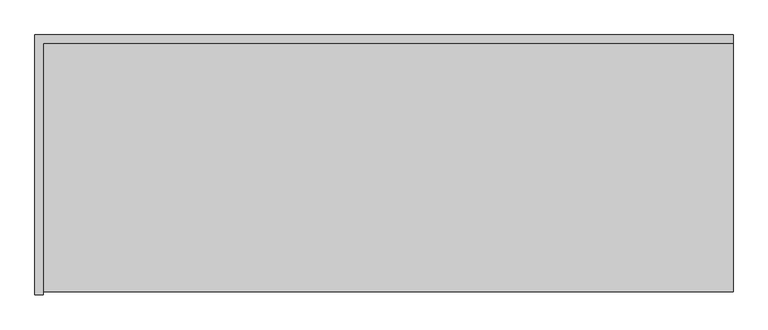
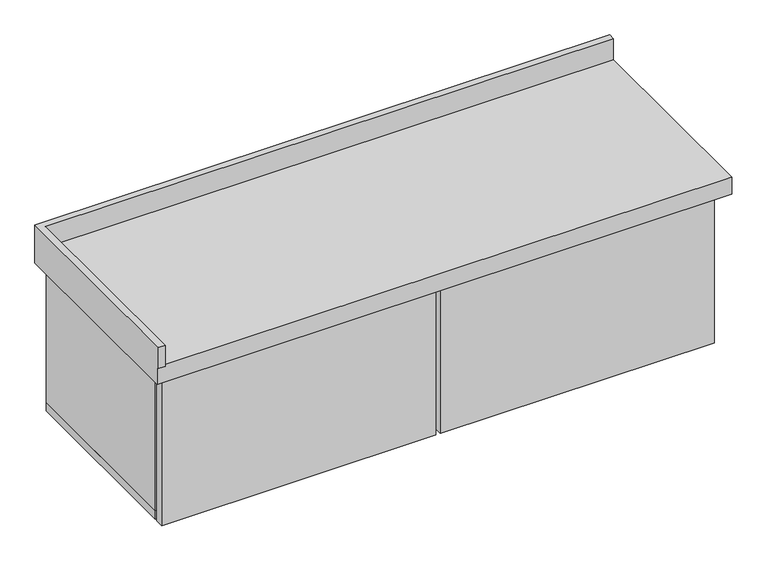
"""IFC4 building model written with IfcOpenShell, lengths in millimetres: furniture geometry, Mueble colgado 2 cajones al lado - lavabo sobreponer : MB10  mueble baño colgado-2 cajones al lado 151."""

from ifc_helpers import new_model, si_unit, frame, origin, place, context, project, spatial, polyline, outline, extrude, faceted_brep, source, transform, mapped, element, save


def furniture_72b59f7f(model_context):
    return source(origin(), model_context, "Body", "SolidModel", [
        extrude(outline(polyline([(-495.0, -520.0), (120.0, -520.0), (120.0, -540.0), (-495.0, -540.0), (-495.0, -520.0)])), frame((0.0, 0.0, 350.0), z_axis=(0.0, 0.0, 1.0), x_axis=(1.0, 0.0, 0.0)), (0.0, 0.0, 1.0), 350.0),
        faceted_brep([(-520.0, -570.0, 800.0), (-520.0, -570.0, 750.0), (-505.0, -570.0, 750.0), (-505.0, -570.0, 800.0), (-505.0, -105.0, 800.0), (770.0, -105.0, 800.0), (770.0, -90.0, 800.0), (-520.0, -90.0, 800.0), (-505.0, -565.0, 750.0), (-505.0, -105.0, 750.0), (-520.0, -90.0, 710.0), (-520.0, -565.0, 710.0), (-520.0, -565.0, 750.0), (770.0, -105.0, 750.0), (770.0, -90.0, 710.0), (770.0, -565.0, 750.0), (770.0, -565.0, 710.0)], [[[0, 1, 2, 3]], [[3, 4, 5, 6, 7, 0]], [[2, 8, 9, 4, 3]], [[0, 7, 10, 11, 12, 1]], [[4, 9, 13, 5]], [[6, 14, 10, 7]], [[5, 13, 15, 16, 14, 6]], [[15, 13, 9, 8]], [[16, 11, 10, 14]], [[1, 12, 8, 2]], [[15, 8, 12, 11, 16]]]),
        extrude(outline(polyline([(745.0, -540.0), (130.0, -540.0), (130.0, -520.0), (745.0, -520.0), (745.0, -540.0)])), frame((0.0, 0.0, 350.0), z_axis=(0.0, 0.0, 1.0), x_axis=(1.0, 0.0, 0.0)), (0.0, 0.0, 1.0), 350.0),
        extrude(outline(polyline([(745.0, -90.0), (745.0, -515.0), (725.0, -515.0), (725.0, -90.0), (745.0, -90.0)])), frame((0.0, 0.0, 370.0), z_axis=(0.0, 0.0, 1.0), x_axis=(1.0, 0.0, 0.0)), (0.0, 0.0, 1.0), 340.0),
        extrude(outline(polyline([(-475.0, -90.0), (-475.0, -515.0), (-495.0, -515.0), (-495.0, -90.0), (-475.0, -90.0)])), frame((0.0, 0.0, 370.0), z_axis=(0.0, 0.0, 1.0), x_axis=(1.0, 0.0, 0.0)), (0.0, 0.0, 1.0), 340.0),
        extrude(outline(polyline([(745.0, -515.0), (-495.0, -515.0), (-495.0, -90.0), (745.0, -90.0), (745.0, -515.0)])), frame((0.0, 0.0, 350.0), z_axis=(0.0, 0.0, 1.0), x_axis=(1.0, 0.0, 0.0)), (0.0, 0.0, 1.0), 20.0),
    ])


if __name__ == "__main__":
    model = new_model("IFC4")
    model_context = context("Model", 3, world=origin())
    ifc_project = project(units=[si_unit("LENGTHUNIT", "METRE", prefix="MILLI")], contexts=[model_context])
    site = spatial("IfcSite", under=ifc_project)
    building = spatial("IfcBuilding", under=site)
    placement = place(None, origin())
    furniture_shape = furniture_72b59f7f(model_context)
    element("IfcFurniture", 1, ObjectType="Mueble colgado 2 cajones al lado - lavabo sobreponer : MB10  mueble baño colgado-2 cajones al lado 151", at=placement, inside=building, context=model_context, shape_type="MappedRepresentation", body=[
        mapped(furniture_shape, transform((0.0, 0.0, 0.0), x_axis=(1.0, 0.0, 0.0), y_axis=(0.0, 1.0, 0.0), z_axis=(0.0, 0.0, 1.0))),
    ])
    save(model, "model.ifc")
